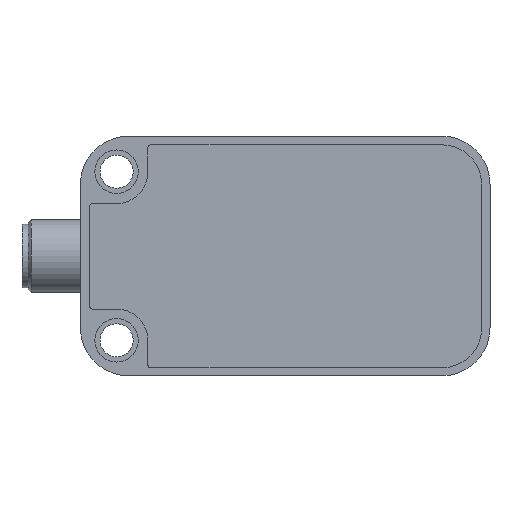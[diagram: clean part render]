
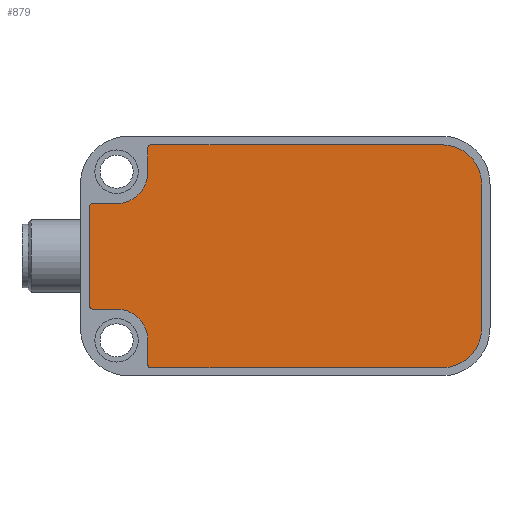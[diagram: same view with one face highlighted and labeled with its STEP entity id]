
A CAD part, front view. The second image highlights one B-rep face of the part: STEP entity #879.
In plain terms, the highlighted planar face has unit normal (0, -1, 0).
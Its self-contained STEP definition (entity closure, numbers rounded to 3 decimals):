
#736=CARTESIAN_POINT('',(-34.693,-14.918,-19.95));
#737=DIRECTION('',(0.0,-1.0,0.0));
#738=DIRECTION('',(1.0,0.0,0.0));
#739=AXIS2_PLACEMENT_3D('',#736,#737,#738);
#740=PLANE('',#739);
#741=CARTESIAN_POINT('',(-67.367,-14.918,-28.7));
#742=VERTEX_POINT('',#741);
#743=CARTESIAN_POINT('',(-67.867,-14.918,-28.2));
#744=VERTEX_POINT('',#743);
#745=CARTESIAN_POINT('',(-67.367,-14.918,-28.2));
#746=DIRECTION('',(0.0,1.0,0.0));
#747=DIRECTION('',(-1.0,0.0,0.0));
#748=AXIS2_PLACEMENT_3D('',#745,#746,#747);
#749=CIRCLE('',#748,0.5);
#750=EDGE_CURVE('',#742,#744,#749,.T.);
#751=ORIENTED_EDGE('',*,*,#750,.F.);
#752=CARTESIAN_POINT('',(-63.367,-14.918,-28.7));
#753=VERTEX_POINT('',#752);
#754=CARTESIAN_POINT('',(-63.367,-14.918,-28.7));
#755=DIRECTION('',(-1.0,0.0,0.0));
#756=VECTOR('',#755,4.);
#757=LINE('',#754,#756);
#758=EDGE_CURVE('',#753,#742,#757,.T.);
#759=ORIENTED_EDGE('',*,*,#758,.F.);
#760=CARTESIAN_POINT('',(-58.167,-14.918,-33.9));
#761=VERTEX_POINT('',#760);
#762=CARTESIAN_POINT('',(-63.367,-14.918,-33.9));
#763=DIRECTION('',(0.0,-1.0,0.0));
#764=DIRECTION('',(-1.0,0.0,0.0));
#765=AXIS2_PLACEMENT_3D('',#762,#763,#764);
#766=CIRCLE('',#765,5.2);
#767=EDGE_CURVE('',#761,#753,#766,.T.);
#768=ORIENTED_EDGE('',*,*,#767,.F.);
#769=CARTESIAN_POINT('',(-58.167,-14.918,-37.95));
#770=VERTEX_POINT('',#769);
#771=CARTESIAN_POINT('',(-58.167,-14.918,-37.95));
#772=DIRECTION('',(0.0,0.0,1.0));
#773=VECTOR('',#772,4.05);
#774=LINE('',#771,#773);
#775=EDGE_CURVE('',#770,#761,#774,.T.);
#776=ORIENTED_EDGE('',*,*,#775,.F.);
#777=CARTESIAN_POINT('',(-57.667,-14.918,-38.45));
#778=VERTEX_POINT('',#777);
#779=CARTESIAN_POINT('',(-57.667,-14.918,-37.95));
#780=DIRECTION('',(0.0,1.0,0.0));
#781=DIRECTION('',(-1.0,0.0,0.0));
#782=AXIS2_PLACEMENT_3D('',#779,#780,#781);
#783=CIRCLE('',#782,0.5);
#784=EDGE_CURVE('',#778,#770,#783,.T.);
#785=ORIENTED_EDGE('',*,*,#784,.F.);
#786=CARTESIAN_POINT('',(-9.267,-14.918,-38.45));
#787=VERTEX_POINT('',#786);
#788=CARTESIAN_POINT('',(-9.267,-14.918,-38.45));
#789=DIRECTION('',(-1.0,0.0,0.0));
#790=VECTOR('',#789,48.4);
#791=LINE('',#788,#790);
#792=EDGE_CURVE('',#787,#778,#791,.T.);
#793=ORIENTED_EDGE('',*,*,#792,.F.);
#794=CARTESIAN_POINT('',(-2.767,-14.918,-31.95));
#795=VERTEX_POINT('',#794);
#796=CARTESIAN_POINT('',(-9.267,-14.918,-31.95));
#797=DIRECTION('',(0.0,1.0,0.0));
#798=DIRECTION('',(0.0,0.0,-1.0));
#799=AXIS2_PLACEMENT_3D('',#796,#797,#798);
#800=CIRCLE('',#799,6.5);
#801=EDGE_CURVE('',#795,#787,#800,.T.);
#802=ORIENTED_EDGE('',*,*,#801,.F.);
#803=CARTESIAN_POINT('',(-2.767,-14.918,-7.95));
#804=VERTEX_POINT('',#803);
#805=CARTESIAN_POINT('',(-2.767,-14.918,-7.95));
#806=DIRECTION('',(0.0,0.0,-1.0));
#807=VECTOR('',#806,24.);
#808=LINE('',#805,#807);
#809=EDGE_CURVE('',#804,#795,#808,.T.);
#810=ORIENTED_EDGE('',*,*,#809,.F.);
#811=CARTESIAN_POINT('',(-9.267,-14.918,-1.45));
#812=VERTEX_POINT('',#811);
#813=CARTESIAN_POINT('',(-9.267,-14.918,-7.95));
#814=DIRECTION('',(0.0,1.0,0.0));
#815=DIRECTION('',(1.0,0.0,0.0));
#816=AXIS2_PLACEMENT_3D('',#813,#814,#815);
#817=CIRCLE('',#816,6.5);
#818=EDGE_CURVE('',#812,#804,#817,.T.);
#819=ORIENTED_EDGE('',*,*,#818,.F.);
#820=CARTESIAN_POINT('',(-57.667,-14.918,-1.45));
#821=VERTEX_POINT('',#820);
#822=CARTESIAN_POINT('',(-57.667,-14.918,-1.45));
#823=DIRECTION('',(1.0,0.0,0.0));
#824=VECTOR('',#823,48.4);
#825=LINE('',#822,#824);
#826=EDGE_CURVE('',#821,#812,#825,.T.);
#827=ORIENTED_EDGE('',*,*,#826,.F.);
#828=CARTESIAN_POINT('',(-58.167,-14.918,-1.95));
#829=VERTEX_POINT('',#828);
#830=CARTESIAN_POINT('',(-57.667,-14.918,-1.95));
#831=DIRECTION('',(0.0,1.0,0.0));
#832=DIRECTION('',(0.0,0.0,1.0));
#833=AXIS2_PLACEMENT_3D('',#830,#831,#832);
#834=CIRCLE('',#833,0.5);
#835=EDGE_CURVE('',#829,#821,#834,.T.);
#836=ORIENTED_EDGE('',*,*,#835,.F.);
#837=CARTESIAN_POINT('',(-58.167,-14.918,-6.));
#838=VERTEX_POINT('',#837);
#839=CARTESIAN_POINT('',(-58.167,-14.918,-6.));
#840=DIRECTION('',(0.0,0.0,1.0));
#841=VECTOR('',#840,4.05);
#842=LINE('',#839,#841);
#843=EDGE_CURVE('',#838,#829,#842,.T.);
#844=ORIENTED_EDGE('',*,*,#843,.F.);
#845=CARTESIAN_POINT('',(-63.367,-14.918,-11.2));
#846=VERTEX_POINT('',#845);
#847=CARTESIAN_POINT('',(-63.367,-14.918,-6.));
#848=DIRECTION('',(0.0,-1.0,0.0));
#849=DIRECTION('',(0.0,0.0,1.0));
#850=AXIS2_PLACEMENT_3D('',#847,#848,#849);
#851=CIRCLE('',#850,5.2);
#852=EDGE_CURVE('',#846,#838,#851,.T.);
#853=ORIENTED_EDGE('',*,*,#852,.F.);
#854=CARTESIAN_POINT('',(-67.367,-14.918,-11.2));
#855=VERTEX_POINT('',#854);
#856=CARTESIAN_POINT('',(-67.367,-14.918,-11.2));
#857=DIRECTION('',(1.0,0.0,0.0));
#858=VECTOR('',#857,4.);
#859=LINE('',#856,#858);
#860=EDGE_CURVE('',#855,#846,#859,.T.);
#861=ORIENTED_EDGE('',*,*,#860,.F.);
#862=CARTESIAN_POINT('',(-67.867,-14.918,-11.7));
#863=VERTEX_POINT('',#862);
#864=CARTESIAN_POINT('',(-67.367,-14.918,-11.7));
#865=DIRECTION('',(0.0,1.0,0.0));
#866=DIRECTION('',(0.0,0.0,1.0));
#867=AXIS2_PLACEMENT_3D('',#864,#865,#866);
#868=CIRCLE('',#867,0.5);
#869=EDGE_CURVE('',#863,#855,#868,.T.);
#870=ORIENTED_EDGE('',*,*,#869,.F.);
#871=CARTESIAN_POINT('',(-67.867,-14.918,-28.2));
#872=DIRECTION('',(0.0,0.0,1.0));
#873=VECTOR('',#872,16.5);
#874=LINE('',#871,#873);
#875=EDGE_CURVE('',#744,#863,#874,.T.);
#876=ORIENTED_EDGE('',*,*,#875,.F.);
#877=EDGE_LOOP('',(#751,#759,#768,#776,#785,#793,#802,#810,#819,#827,#836,#844,#853,#861,#870,#876));
#878=FACE_OUTER_BOUND('',#877,.T.);
#879=ADVANCED_FACE('',(#878),#740,.T.);
